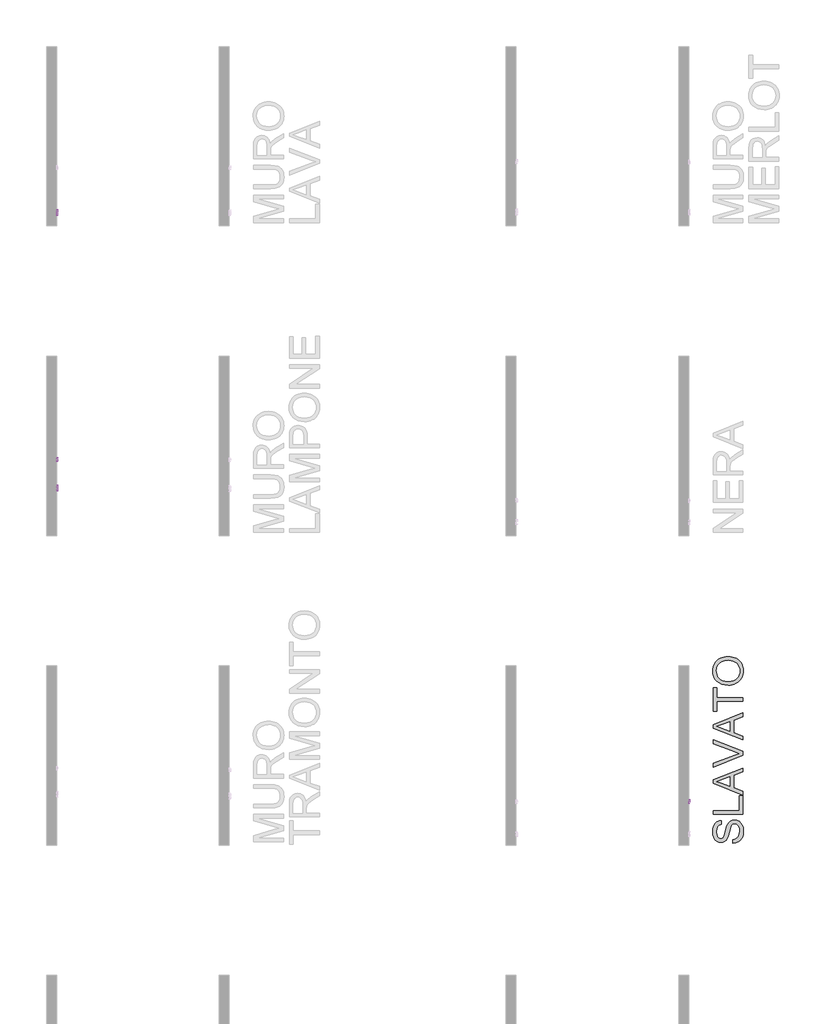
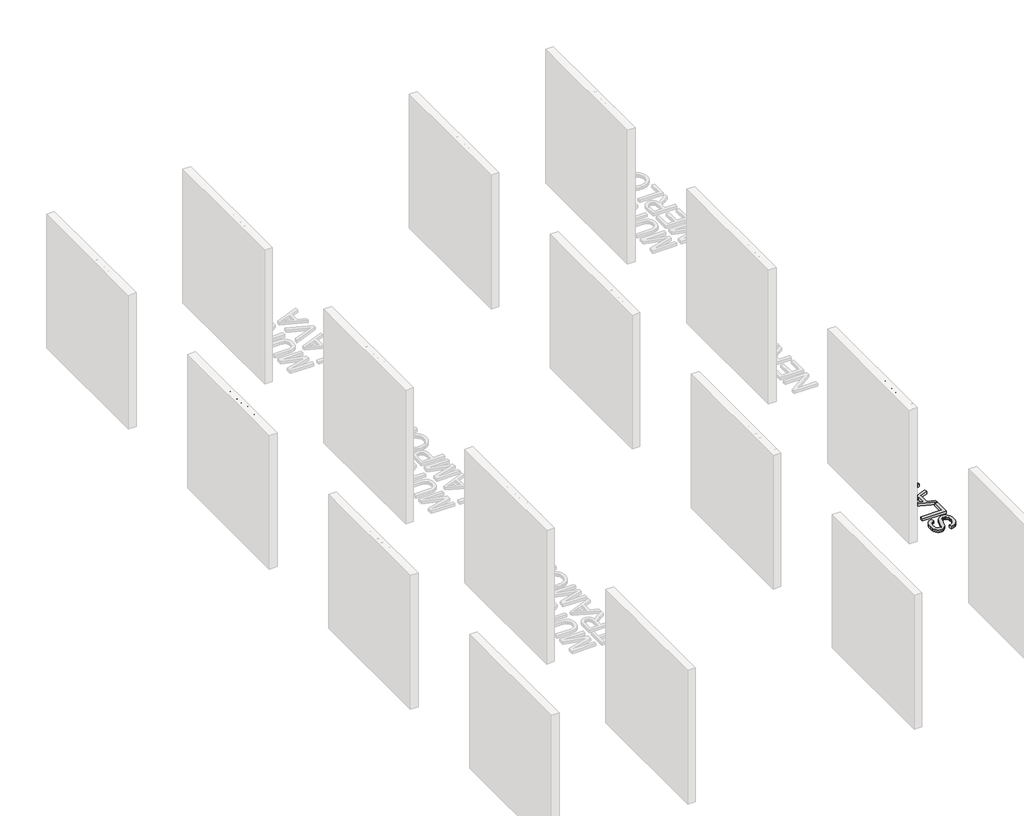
# One storey, part 7 of 11: 5 proxies.
"""IFC4 building model written with IfcOpenShell, lengths in millimetres."""

from ifc_helpers import new_model, si_unit, frame, origin, origin_with_axes, place, context, project, spatial, polyline, outline, extrude, element, save

model = new_model("IFC4")

# Units and contexts
model_context = context("Model", 3, world=origin())
ifc_project = project(units=[si_unit("LENGTHUNIT", "METRE", prefix="MILLI")], contexts=[model_context])

# Site, building, storey
site = spatial("IfcSite", under=ifc_project)
building = spatial("IfcBuilding", under=site)
storey = spatial("IfcBuildingStorey", under=building, Name="PORTOBELLO - SHOWROOM", Elevation=0.0)

# Proxies
placement = place(None, origin())
element("IfcBuildingElementProxy", 1, Name="10mm Arial", ObjectType="10mm Arial", at=placement, inside=storey, context=model_context, shape_type="SweptSolid", body=[
    extrude(outline(polyline([(2.1290641, 2566.4186247), (2.1290641, 2666.8749349), (23.736, 2666.8749349), (44.2883408, 2596.0699135), (48.4331446, 2581.2810573), (52.9213049, 2597.2961869), (73.1302892, 2666.8749349), (94.737225, 2666.8749349), (94.737225, 2566.4186247), (82.1801863, 2566.4186247), (82.1801863, 2654.3178961), (56.9434814, 2566.4186247), (39.9228078, 2566.4186247), (14.6861029, 2654.3178961), (14.6861029, 2566.4186247), (2.1290641, 2566.4186247)])), frame((-32979.0012486, 0.0, 0.0), z_axis=(1.0, 0.0, 0.0), x_axis=(0.0, 1.0, 0.0)), (0.0, 0.0, 1.0), 20.0),
    extrude(outline(polyline([(162.2313084, 2566.4186247), (162.2313084, 2579.0982908), (152.3965964, 2568.4113189), (139.5697775, 2564.8489949), (127.7607655, 2567.3505924), (119.6183106, 2573.6291118), (115.878177, 2582.8752126), (115.142413, 2594.5493346), (115.142413, 2640.1912275), (127.6994518, 2640.1912275), (127.6994518, 2600.459972), (128.4597413, 2587.6576786), (133.4261482, 2580.1406231), (142.7826136, 2577.4060336), (153.2672505, 2580.2019368), (160.1956947, 2587.8170941), (162.2313084, 2601.8088727), (162.2313084, 2640.1912275), (174.7883472, 2640.1912275), (174.7883472, 2566.4186247), (162.2313084, 2566.4186247)])), frame((-32979.0012486, 0.0, 0.0), z_axis=(1.0, 0.0, 0.0), x_axis=(0.0, 1.0, 0.0)), (0.0, 0.0, 1.0), 20.0),
    extrude(outline(polyline([(192.0542755, 2566.4186247), (192.0542755, 2640.1912275), (203.0416844, 2640.1912275), (203.0416844, 2629.277395), (210.8407827, 2639.3328362), (218.6889319, 2641.7608573), (231.2950217, 2637.8858337), (227.1011669, 2626.6286446), (218.271999, 2629.2038186), (211.1718765, 2626.7267465), (206.646928, 2619.8596159), (204.6113143, 2605.193387), (204.6113143, 2566.4186247), (192.0542755, 2566.4186247)])), frame((-32979.0012486, 0.0, 0.0), z_axis=(1.0, 0.0, 0.0), x_axis=(0.0, 1.0, 0.0)), (0.0, 0.0, 1.0), 20.0),
    extrude(outline(polyline([(236.0039112, 2603.3049261), (238.7201066, 2621.0920206), (246.8686928, 2633.593877), (256.9363967, 2639.7191123), (268.9906634, 2641.7608573), (282.1822986, 2639.2745882), (292.7190521, 2631.8157807), (299.6260366, 2619.9730462), (301.9283647, 2604.3349957), (297.8571373, 2581.9922959), (285.9990743, 2569.349418), (268.9906634, 2564.8489949), (255.6396127, 2567.326067), (245.1151219, 2574.7572833), (238.2817139, 2586.8483382), (236.0039112, 2603.3049261)]), holes=[polyline([(248.56095, 2603.3294516), (250.0140838, 2591.9649636), (254.3734855, 2583.868494), (260.9340477, 2579.0216487), (268.9906634, 2577.4060336), (277.0104909, 2579.0308458), (283.5587904, 2583.9052822), (287.9181921, 2592.1090507), (289.371326, 2603.721859), (287.908995, 2614.7552532), (283.5220022, 2622.7413582), (276.9645057, 2627.5882035), (268.9906634, 2629.2038186), (260.9340477, 2627.5943348), (254.3734855, 2622.7658837), (250.0140838, 2614.6878082), (248.56095, 2603.3294516)])]), frame((-32979.0012486, 0.0, 0.0), z_axis=(1.0, 0.0, 0.0), x_axis=(0.0, 1.0, 0.0)), (0.0, 0.0, 1.0), 20.0),
    extrude(outline(polyline([(356.8654093, 2566.4186247), (356.8654093, 2666.8749349), (369.4224481, 2666.8749349), (369.4224481, 2578.9756635), (419.6506032, 2578.9756635), (419.6506032, 2566.4186247), (356.8654093, 2566.4186247)])), frame((-32979.0012486, 0.0, 0.0), z_axis=(1.0, 0.0, 0.0), x_axis=(0.0, 1.0, 0.0)), (0.0, 0.0, 1.0), 20.0),
    extrude(outline(polyline([(479.2965373, 2575.8364038), (467.1196433, 2567.326067), (453.667425, 2564.8489949), (443.1735911, 2566.338917), (435.4327408, 2570.8086832), (430.6594719, 2577.596106), (429.0683823, 2586.0389978), (431.471878, 2595.9718117), (437.7871855, 2603.1822988), (446.5795652, 2607.3025771), (457.4443468, 2609.191038), (479.2229609, 2613.5075201), (479.2965373, 2616.3034233), (475.8384466, 2625.5740495), (461.9570326, 2629.2038186), (449.2528411, 2626.7880601), (443.1950509, 2618.2164096), (430.6380121, 2619.7860395), (436.0704029, 2632.0487727), (447.0087609, 2639.2347343), (463.5757134, 2641.7608573), (478.7937653, 2639.5290399), (487.3899412, 2633.9249708), (491.2404394, 2625.4023713), (491.8535761, 2614.4149624), (491.8535761, 2598.7922403), (492.4912382, 2576.976838), (494.9928358, 2566.4186247), (482.435797, 2566.4186247), (479.2965373, 2575.8364038)]), holes=[polyline([(479.2965373, 2600.9504813), (459.0385021, 2597.0999831), (448.2350342, 2595.0643694), (443.3422037, 2591.7534315), (441.625421, 2586.9219146), (445.3655546, 2580.1283604), (456.3407008, 2577.4060336), (469.0448924, 2580.4104033), (477.2363982, 2587.682204), (479.2229609, 2597.3942887), (479.2965373, 2600.9504813)])]), frame((-32979.0012486, 0.0, 0.0), z_axis=(1.0, 0.0, 0.0), x_axis=(0.0, 1.0, 0.0)), (0.0, 0.0, 1.0), 20.0),
    extrude(outline(polyline([(509.1195044, 2566.4186247), (509.1195044, 2640.1912275), (521.6765432, 2640.1912275), (521.6765432, 2628.0511216), (530.3095073, 2637.9961983), (542.596766, 2641.7608573), (555.1783302, 2637.9226219), (562.0945117, 2627.1682049), (571.8924355, 2638.1126942), (584.2655333, 2641.7608573), (593.7047721, 2640.2433441), (600.685333, 2635.6908044), (604.9987494, 2627.9806109), (606.4365549, 2616.9901363), (606.4365549, 2566.4186247), (593.8795161, 2566.4186247), (593.8795161, 2611.5945337), (592.7145564, 2622.0791706), (588.4961762, 2627.2417813), (581.3224773, 2629.2038186), (568.973905, 2624.176098), (565.285888, 2617.6339298), (564.056549, 2608.0628666), (564.056549, 2566.4186247), (551.4995103, 2566.4186247), (551.4995103, 2612.9924853), (548.5932425, 2625.1571166), (539.0650988, 2629.2038186), (529.7699471, 2626.5060173), (523.5895296, 2618.6088171), (521.6765432, 2603.6237572), (521.6765432, 2566.4186247), (509.1195044, 2566.4186247)])), frame((-32979.0012486, 0.0, 0.0), z_axis=(1.0, 0.0, 0.0), x_axis=(0.0, 1.0, 0.0)), (0.0, 0.0, 1.0), 20.0),
    extrude(outline(polyline([(625.272113, 2538.1652875), (625.272113, 2640.1912275), (637.8291518, 2640.1912275), (637.8291518, 2627.8794434), (646.5111669, 2638.2905038), (658.2343398, 2641.7608573), (674.1513674, 2636.904815), (684.5501652, 2623.2196048), (688.0573069, 2603.8690118), (684.096444, 2583.5251375), (672.5940003, 2569.668249), (656.7137609, 2564.8489949), (645.7876656, 2568.0740937), (637.8291518, 2576.2288113), (637.8291518, 2538.1652875), (625.272113, 2538.1652875)]), holes=[polyline([(637.8291518, 2602.7163149), (639.1872495, 2591.4591259), (643.2615426, 2583.5864512), (649.2733475, 2578.951138), (656.4439807, 2577.4060336), (663.7311099, 2579.0063203), (669.896199, 2583.8071804), (674.0992508, 2591.9680293), (675.5002681, 2603.6482826), (674.1329733, 2614.844158), (670.0310891, 2622.8271973), (664.0284812, 2627.6096633), (656.9590155, 2629.2038186), (649.8619587, 2627.5084957), (643.6294246, 2622.4225271), (639.27922, 2614.1053283), (637.8291518, 2602.7163149)])]), frame((-32979.0012486, 0.0, 0.0), z_axis=(1.0, 0.0, 0.0), x_axis=(0.0, 1.0, 0.0)), (0.0, 0.0, 1.0), 20.0),
    extrude(outline(polyline([(699.0447158, 2603.3049261), (701.7609112, 2621.0920206), (709.9094974, 2633.593877), (719.9772013, 2639.7191123), (732.031468, 2641.7608573), (745.2231032, 2639.2745882), (755.7598567, 2631.8157807), (762.6668412, 2619.9730462), (764.9691693, 2604.3349957), (760.8979419, 2581.9922959), (749.0398789, 2569.349418), (732.031468, 2564.8489949), (718.6804173, 2567.326067), (708.1559265, 2574.7572833), (701.3225185, 2586.8483382), (699.0447158, 2603.3049261)]), holes=[polyline([(711.6017546, 2603.3294516), (713.0548884, 2591.9649636), (717.4142901, 2583.868494), (723.9748523, 2579.0216487), (732.031468, 2577.4060336), (740.0512955, 2579.0308458), (746.599595, 2583.9052822), (750.9589967, 2592.1090507), (752.4121306, 2603.721859), (750.9497996, 2614.7552532), (746.5628068, 2622.7413582), (740.0053103, 2627.5882035), (732.031468, 2629.2038186), (723.9748523, 2627.5943348), (717.4142901, 2622.7658837), (713.0548884, 2614.6878082), (711.6017546, 2603.3294516)])]), frame((-32979.0012486, 0.0, 0.0), z_axis=(1.0, 0.0, 0.0), x_axis=(0.0, 1.0, 0.0)), (0.0, 0.0, 1.0), 20.0),
    extrude(outline(polyline([(779.0958379, 2566.4186247), (779.0958379, 2640.1912275), (791.6528767, 2640.1912275), (791.6528767, 2629.8905316), (801.2545968, 2638.7932759), (814.3634585, 2641.7608573), (826.2215215, 2639.3696244), (834.3149254, 2633.091105), (838.0795845, 2623.8572669), (838.7417721, 2611.7171611), (838.7417721, 2566.4186247), (826.1847333, 2566.4186247), (826.1847333, 2610.0249039), (824.7377308, 2621.1349401), (819.6241711, 2627.0087893), (811.0034697, 2629.2038186), (797.3795731, 2624.2741998), (793.0845508, 2617.1311578), (791.6528767, 2605.561269), (791.6528767, 2566.4186247), (779.0958379, 2566.4186247)])), frame((-32979.0012486, 0.0, 0.0), z_axis=(1.0, 0.0, 0.0), x_axis=(0.0, 1.0, 0.0)), (0.0, 0.0, 1.0), 20.0),
    extrude(outline(polyline([(907.6583325, 2588.3934426), (919.9701166, 2586.8238127), (915.5340729, 2577.5470551), (908.4554102, 2570.6124795), (898.893544, 2566.289866), (887.0078899, 2564.8489949), (872.2742159, 2567.335264), (860.9373191, 2574.7940715), (853.7084379, 2586.7410393), (851.2988109, 2602.6917894), (853.7329634, 2619.1790342), (861.035421, 2631.5092124), (872.2190336, 2639.1979461), (886.2966513, 2641.7608573), (899.9358763, 2639.2040775), (910.8343804, 2631.5337379), (917.9804882, 2619.2280851), (920.3625241, 2602.7653658), (920.2889477, 2599.3808515), (863.8558496, 2599.3808515), (866.0294191, 2589.9814665), (871.0785995, 2583.0714164), (878.3657287, 2578.8223793), (887.2531445, 2577.4060336), (899.5649286, 2580.0302585), (907.6583325, 2588.3934426)]), holes=[polyline([(863.8558496, 2611.9378903), (907.8054853, 2611.9378903), (902.7777647, 2623.3177066), (895.456913, 2627.7322906), (886.2476004, 2629.2038186), (870.7842939, 2624.5071918), (865.9190545, 2619.016553), (863.8558496, 2611.9378903)])]), frame((-32979.0012486, 0.0, 0.0), z_axis=(1.0, 0.0, 0.0), x_axis=(0.0, 1.0, 0.0)), (0.0, 0.0, 1.0), 20.0),
])
element("IfcBuildingElementProxy", 2, Name="10mm Arial", ObjectType="10mm Arial", at=placement, inside=storey, context=model_context, shape_type="SweptSolid", body=[
    extrude(outline(polyline([(4660.4376646, 2563.7332584), (4660.4376646, 2664.1895685), (4682.0446004, 2664.1895685), (4702.5969412, 2593.3845472), (4706.741745, 2578.595691), (4711.2299054, 2594.6108205), (4731.4388897, 2664.1895685), (4753.0458255, 2664.1895685), (4753.0458255, 2563.7332584), (4740.4887867, 2563.7332584), (4740.4887867, 2651.6325297), (4715.2520819, 2563.7332584), (4698.2314082, 2563.7332584), (4672.9947034, 2651.6325297), (4672.9947034, 2563.7332584), (4660.4376646, 2563.7332584)])), frame((-32979.0012486, 0.0, 0.0), z_axis=(1.0, 0.0, 0.0), x_axis=(0.0, 1.0, 0.0)), (0.0, 0.0, 1.0), 20.0),
    extrude(outline(polyline([(4820.5399089, 2563.7332584), (4820.5399089, 2576.4129245), (4810.7051969, 2565.7259525), (4797.878378, 2562.1636285), (4786.0693659, 2564.6652261), (4777.9269111, 2570.9437455), (4774.1867775, 2580.1898463), (4773.4510135, 2591.8639683), (4773.4510135, 2637.5058611), (4786.0080523, 2637.5058611), (4786.0080523, 2597.7746056), (4786.7683417, 2584.9723122), (4791.7347487, 2577.4552568), (4801.0912141, 2574.7206673), (4811.5758509, 2577.5165704), (4818.5042952, 2585.1317277), (4820.5399089, 2599.1235063), (4820.5399089, 2637.5058611), (4833.0969477, 2637.5058611), (4833.0969477, 2563.7332584), (4820.5399089, 2563.7332584)])), frame((-32979.0012486, 0.0, 0.0), z_axis=(1.0, 0.0, 0.0), x_axis=(0.0, 1.0, 0.0)), (0.0, 0.0, 1.0), 20.0),
    extrude(outline(polyline([(4850.362876, 2563.7332584), (4850.362876, 2637.5058611), (4861.3502849, 2637.5058611), (4861.3502849, 2626.5920286), (4869.1493832, 2636.6474698), (4876.9975324, 2639.075491), (4889.6036221, 2635.2004673), (4885.4097674, 2623.9432782), (4876.5805995, 2626.5184522), (4869.480477, 2624.0413801), (4864.9555284, 2617.1742495), (4862.9199147, 2602.5080206), (4862.9199147, 2563.7332584), (4850.362876, 2563.7332584)])), frame((-32979.0012486, 0.0, 0.0), z_axis=(1.0, 0.0, 0.0), x_axis=(0.0, 1.0, 0.0)), (0.0, 0.0, 1.0), 20.0),
    extrude(outline(polyline([(4894.3125117, 2600.6195597), (4897.0287071, 2618.4066542), (4905.1772932, 2630.9085107), (4915.2449972, 2637.0337459), (4927.2992639, 2639.075491), (4940.4908991, 2636.5892218), (4951.0276526, 2629.1304144), (4957.934637, 2617.2876798), (4960.2369652, 2601.6496293), (4956.1657378, 2579.3069295), (4944.3076748, 2566.6640516), (4927.2992639, 2562.1636285), (4913.9482131, 2564.6407006), (4903.4237224, 2572.0719169), (4896.5903143, 2584.1629718), (4894.3125117, 2600.6195597)]), holes=[polyline([(4906.8695504, 2600.6440852), (4908.3226843, 2589.2795972), (4912.6820859, 2581.1831277), (4919.2426482, 2576.3362824), (4927.2992639, 2574.7206673), (4935.3190914, 2576.3454794), (4941.8673909, 2581.2199159), (4946.2267925, 2589.4236844), (4947.6799264, 2601.0364927), (4946.2175955, 2612.0698868), (4941.8306027, 2620.0559918), (4935.2731061, 2624.9028371), (4927.2992639, 2626.5184522), (4919.2426482, 2624.9089685), (4912.6820859, 2620.0805173), (4908.3226843, 2612.0024418), (4906.8695504, 2600.6440852)])]), frame((-32979.0012486, 0.0, 0.0), z_axis=(1.0, 0.0, 0.0), x_axis=(0.0, 1.0, 0.0)), (0.0, 0.0, 1.0), 20.0),
    extrude(outline(polyline([(5015.1740098, 2563.7332584), (5015.1740098, 2664.1895685), (5027.7310486, 2664.1895685), (5027.7310486, 2576.2902971), (5077.9592036, 2576.2902971), (5077.9592036, 2563.7332584), (5015.1740098, 2563.7332584)])), frame((-32979.0012486, 0.0, 0.0), z_axis=(1.0, 0.0, 0.0), x_axis=(0.0, 1.0, 0.0)), (0.0, 0.0, 1.0), 20.0),
    extrude(outline(polyline([(5137.6051378, 2573.1510374), (5125.4282438, 2564.6407006), (5111.9760255, 2562.1636285), (5101.4821916, 2563.6535506), (5093.7413412, 2568.1233168), (5088.9680724, 2574.9107396), (5087.3769827, 2583.3536314), (5089.7804784, 2593.2864453), (5096.095786, 2600.4969324), (5104.8881657, 2604.6172108), (5115.7529473, 2606.5056717), (5137.5315614, 2610.8221537), (5137.6051378, 2613.6180569), (5134.147047, 2622.8886832), (5120.2656331, 2626.5184522), (5107.5614415, 2624.1026938), (5101.5036513, 2615.5310433), (5088.9466126, 2617.1006731), (5094.3790034, 2629.3634063), (5105.3173614, 2636.5493679), (5121.8843139, 2639.075491), (5137.1023657, 2636.8436735), (5145.6985417, 2631.2396045), (5149.5490399, 2622.7170049), (5150.1621766, 2611.729596), (5150.1621766, 2596.1068739), (5150.7998387, 2574.2914716), (5153.3014363, 2563.7332584), (5140.7443975, 2563.7332584), (5137.6051378, 2573.1510374)]), holes=[polyline([(5137.6051378, 2598.265115), (5117.3471026, 2594.4146168), (5106.5436347, 2592.379003), (5101.6508041, 2589.0680651), (5099.9340215, 2584.2365482), (5103.6741551, 2577.442994), (5114.6493013, 2574.7206673), (5127.3534929, 2577.7250369), (5135.5449986, 2584.9968377), (5137.5315614, 2594.7089223), (5137.6051378, 2598.265115)])]), frame((-32979.0012486, 0.0, 0.0), z_axis=(1.0, 0.0, 0.0), x_axis=(0.0, 1.0, 0.0)), (0.0, 0.0, 1.0), 20.0),
    extrude(outline(polyline([(5185.527899, 2563.7332584), (5159.5799556, 2637.5058611), (5172.8727584, 2637.5058611), (5188.5935823, 2593.3109708), (5193.3269973, 2578.4485382), (5197.9623105, 2592.4771049), (5213.7812363, 2637.5058611), (5227.074039, 2637.5058611), (5201.4449267, 2563.7332584), (5185.527899, 2563.7332584)])), frame((-32979.0012486, 0.0, 0.0), z_axis=(1.0, 0.0, 0.0), x_axis=(0.0, 1.0, 0.0)), (0.0, 0.0, 1.0), 20.0),
    extrude(outline(polyline([(5285.1503433, 2573.1510374), (5272.9734493, 2564.6407006), (5259.521231, 2562.1636285), (5249.0273971, 2563.6535506), (5241.2865468, 2568.1233168), (5236.5132779, 2574.9107396), (5234.9221883, 2583.3536314), (5237.325684, 2593.2864453), (5243.6409915, 2600.4969324), (5252.4333712, 2604.6172108), (5263.2981528, 2606.5056717), (5285.0767669, 2610.8221537), (5285.1503433, 2613.6180569), (5281.6922526, 2622.8886832), (5267.8108386, 2626.5184522), (5255.1066471, 2624.1026938), (5249.0488569, 2615.5310433), (5236.4918181, 2617.1006731), (5241.9242089, 2629.3634063), (5252.8625669, 2636.5493679), (5269.4295194, 2639.075491), (5284.6475713, 2636.8436735), (5293.2437472, 2631.2396045), (5297.0942454, 2622.7170049), (5297.7073821, 2611.729596), (5297.7073821, 2596.1068739), (5298.3450442, 2574.2914716), (5300.8466418, 2563.7332584), (5288.289603, 2563.7332584), (5285.1503433, 2573.1510374)]), holes=[polyline([(5285.1503433, 2598.265115), (5264.8923081, 2594.4146168), (5254.0888402, 2592.379003), (5249.1960097, 2589.0680651), (5247.479227, 2584.2365482), (5251.2193606, 2577.442994), (5262.1945068, 2574.7206673), (5274.8986984, 2577.7250369), (5283.0902042, 2584.9968377), (5285.0767669, 2594.7089223), (5285.1503433, 2598.265115)])]), frame((-32979.0012486, 0.0, 0.0), z_axis=(1.0, 0.0, 0.0), x_axis=(0.0, 1.0, 0.0)), (0.0, 0.0, 1.0), 20.0),
])
element("IfcBuildingElementProxy", 3, Name="10mm Arial Narrow", ObjectType="10mm Arial Narrow", at=placement, inside=storey, context=model_context, shape_type="SweptSolid", body=[
    extrude(outline(polyline([(959.2641232, 2566.4186247), (959.2641232, 2667.1372285), (990.5610079, 2667.1372285), (1006.8567094, 2665.2589077), (1018.3296956, 2655.7784646), (1022.619374, 2638.7593557), (1020.8330656, 2626.6835302), (1015.4741404, 2617.0571364), (1005.7303516, 2610.755878), (990.7894523, 2608.6554586), (969.0110849, 2608.6554586), (969.0110849, 2566.4186247), (959.2641232, 2566.4186247)]), holes=[polyline([(969.0110849, 2620.0269138), (991.9824398, 2620.0269138), (1007.8466352, 2624.557728), (1012.8724123, 2638.2263188), (1010.3975979, 2648.3920952), (1004.419969, 2654.192045), (991.7539954, 2655.7657732), (969.0110849, 2655.7657732), (969.0110849, 2620.0269138)])]), frame((-32979.0012486, 0.0, 0.0), z_axis=(1.0, 0.0, 0.0), x_axis=(0.0, 1.0, 0.0)), (0.0, 0.0, 1.0), 20.0),
    extrude(outline(polyline([(1030.741842, 2602.9697309), (1032.6963109, 2619.5605065), (1038.5597175, 2631.5125913), (1047.4182842, 2638.7371459), (1058.3582334, 2641.1453307), (1069.171269, 2638.7371459), (1078.0552184, 2631.5125913), (1083.9947732, 2619.7508768), (1085.9746247, 2603.7312123), (1084.0296744, 2586.5693257), (1078.1948233, 2574.4268706), (1069.3457751, 2567.202316), (1058.3582334, 2564.7941311), (1047.4976052, 2567.2086617), (1038.6231743, 2574.4522533), (1032.7121751, 2586.4106838), (1030.741842, 2602.9697309)]), holes=[polyline([(1040.4888037, 2602.9951136), (1041.7928406, 2590.4433622), (1045.7049511, 2581.5721042), (1051.5461479, 2576.2988456), (1058.6374432, 2574.5410928), (1065.3575164, 2576.3147098), (1071.0495897, 2581.635561), (1074.9331447, 2590.5226832), (1076.2276631, 2602.9951136), (1074.9236262, 2615.508791), (1071.0115156, 2624.3673577), (1065.1703189, 2629.6406162), (1058.0790235, 2631.3983691), (1051.3113578, 2629.6310977), (1045.628803, 2624.3292836), (1041.7738035, 2615.4611984), (1040.4888037, 2602.9951136)])]), frame((-32979.0012486, 0.0, 0.0), z_axis=(1.0, 0.0, 0.0), x_axis=(0.0, 1.0, 0.0)), (0.0, 0.0, 1.0), 20.0),
    extrude(outline(polyline([(1157.4523435, 2574.5410928), (1159.0768371, 2564.7941311), (1151.7158505, 2564.7941311), (1143.4410862, 2566.9135876), (1139.126025, 2572.7135375), (1137.9584202, 2587.3593627), (1137.9584202, 2629.7738755), (1129.8359522, 2629.7738755), (1129.8359522, 2633.0228627), (1128.2114586, 2628.1493819), (1120.6474102, 2629.7738755), (1114.5682505, 2627.4513573), (1110.6973869, 2620.9660742), (1108.7175353, 2605.5587676), (1108.7175353, 2566.4186247), (1098.9705736, 2566.4186247), (1098.9705736, 2639.5208371), (1108.7175353, 2639.5208371), (1108.7175353, 2629.8246409), (1114.9616826, 2638.911652), (1121.3581262, 2641.1453307), (1129.8359522, 2639.5208371), (1137.9584202, 2639.5208371), (1137.9584202, 2655.7657732), (1147.7053819, 2663.8882413), (1147.7053819, 2639.5208371), (1157.4523435, 2639.5208371), (1157.4523435, 2629.7738755), (1147.7053819, 2629.7738755), (1147.7053819, 2585.1256839), (1148.5683941, 2577.1301295), (1153.1880478, 2574.5410928), (1157.4523435, 2574.5410928)])), frame((-32979.0012486, 0.0, 0.0), z_axis=(1.0, 0.0, 0.0), x_axis=(0.0, 1.0, 0.0)), (0.0, 0.0, 1.0), 20.0),
    extrude(outline(polyline([(1163.950318, 2602.9697309), (1165.9047868, 2619.5605065), (1171.7681935, 2631.5125913), (1180.6267602, 2638.7371459), (1191.5667093, 2641.1453307), (1202.3797449, 2638.7371459), (1211.2636943, 2631.5125913), (1217.2032491, 2619.7508768), (1219.1831007, 2603.7312123), (1217.2381503, 2586.5693257), (1211.4032992, 2574.4268706), (1202.5542511, 2567.202316), (1191.5667093, 2564.7941311), (1180.7060811, 2567.2086617), (1171.8316502, 2574.4522533), (1165.920651, 2586.4106838), (1163.950318, 2602.9697309)]), holes=[polyline([(1173.6972796, 2602.9951136), (1175.0013165, 2590.4433622), (1178.9134271, 2581.5721042), (1184.7546238, 2576.2988456), (1191.8459192, 2574.5410928), (1198.5659923, 2576.3147098), (1204.2580656, 2581.635561), (1208.1416207, 2590.5226832), (1209.436139, 2602.9951136), (1208.1321022, 2615.508791), (1204.2199916, 2624.3673577), (1198.3787948, 2629.6406162), (1191.2874995, 2631.3983691), (1184.5198337, 2629.6310977), (1178.8372789, 2624.3292836), (1174.9822794, 2615.4611984), (1173.6972796, 2602.9951136)])]), frame((-32979.0012486, 0.0, 0.0), z_axis=(1.0, 0.0, 0.0), x_axis=(0.0, 1.0, 0.0)), (0.0, 0.0, 1.0), 20.0),
    extrude(outline(polyline([(1241.9260112, 2566.4186247), (1232.1790495, 2566.4186247), (1232.1790495, 2667.1372285), (1241.9260112, 2667.1372285), (1241.9260112, 2631.7283443), (1249.3250719, 2638.8101212), (1258.5263053, 2641.1453307), (1271.4080319, 2636.9444918), (1280.6854134, 2624.2150614), (1284.162845, 2603.5281506), (1282.230586, 2587.0738071), (1276.433809, 2574.871068), (1268.0606867, 2567.3133653), (1258.3993917, 2564.7941311), (1249.0585534, 2567.4085505), (1241.9260112, 2575.1756606), (1241.9260112, 2566.4186247)]), holes=[polyline([(1241.9260112, 2603.5281506), (1244.0073936, 2586.2805974), (1249.896183, 2577.5489442), (1258.3486263, 2574.5410928), (1264.2913539, 2576.330574), (1269.5297112, 2581.6990177), (1274.4158834, 2603.1220272), (1269.7073902, 2624.557728), (1264.4626872, 2629.6882088), (1258.1455646, 2631.3983691), (1252.1679357, 2629.6088878), (1246.8756402, 2624.2404441), (1241.9260112, 2603.5281506)])]), frame((-32979.0012486, 0.0, 0.0), z_axis=(1.0, 0.0, 0.0), x_axis=(0.0, 1.0, 0.0)), (0.0, 0.0, 1.0), 20.0),
    extrude(outline(polyline([(1336.1466405, 2589.1615352), (1345.8936022, 2587.5370416), (1342.1940718, 2577.6504751), (1336.3750849, 2570.5306242), (1328.6714316, 2566.2282544), (1319.317902, 2564.7941311), (1307.724348, 2567.2086617), (1298.5802258, 2574.4522533), (1292.640671, 2586.2583875), (1290.6608195, 2602.3605458), (1292.6501896, 2619.0274695), (1298.6182999, 2631.2079987), (1307.6323357, 2638.6609977), (1318.7594824, 2641.1453307), (1329.4424315, 2638.7466644), (1338.1899489, 2631.5506654), (1344.0247999, 2619.8111608), (1345.9697503, 2603.7819777), (1345.8936022, 2600.5329905), (1300.4077811, 2600.5329905), (1306.4107927, 2581.0898326), (1312.3408289, 2576.1782777), (1319.4448156, 2574.5410928), (1329.6232834, 2578.1962034), (1336.1466405, 2589.1615352)]), holes=[polyline([(1301.0677316, 2610.2799522), (1336.1466405, 2610.2799522), (1331.8823448, 2624.5450367), (1326.0570122, 2629.685036), (1318.8356305, 2631.3983691), (1306.6265457, 2625.6872587), (1301.0677316, 2610.2799522)])]), frame((-32979.0012486, 0.0, 0.0), z_axis=(1.0, 0.0, 0.0), x_axis=(0.0, 1.0, 0.0)), (0.0, 0.0, 1.0), 20.0),
    extrude(outline(polyline([(-32959.0012486, 1368.6365127), (-32959.0012486, 1358.889551), (-32979.0012486, 1358.889551), (-32979.0012486, 1368.6365127), (-32959.0012486, 1368.6365127)])), frame((0.0, 0.0, 2566.4186247), z_axis=(0.0, 0.0, 1.0), x_axis=(1.0, 0.0, 0.0)), (0.0, 0.0, 1.0), 100.7186038),
    extrude(outline(polyline([(-32959.0012486, 1394.6284104), (-32959.0012486, 1384.8814488), (-32979.0012486, 1384.8814488), (-32979.0012486, 1394.6284104), (-32959.0012486, 1394.6284104)])), frame((0.0, 0.0, 2566.4186247), z_axis=(0.0, 0.0, 1.0), x_axis=(1.0, 0.0, 0.0)), (0.0, 0.0, 1.0), 100.7186038),
    extrude(outline(polyline([(1405.9998657, 2602.9697309), (1407.9543346, 2619.5605065), (1413.8177412, 2631.5125913), (1422.6763079, 2638.7371459), (1433.616257, 2641.1453307), (1444.4292926, 2638.7371459), (1453.3132421, 2631.5125913), (1459.2527968, 2619.7508768), (1461.2326484, 2603.7312123), (1459.287698, 2586.5693257), (1453.452847, 2574.4268706), (1444.6037988, 2567.202316), (1433.616257, 2564.7941311), (1422.7556289, 2567.2086617), (1413.881198, 2574.4522533), (1407.9701988, 2586.4106838), (1405.9998657, 2602.9697309)]), holes=[polyline([(1415.7468273, 2602.9951136), (1417.0508642, 2590.4433622), (1420.9629748, 2581.5721042), (1426.8041715, 2576.2988456), (1433.8954669, 2574.5410928), (1440.6155401, 2576.3147098), (1446.3076134, 2581.635561), (1450.1911684, 2590.5226832), (1451.4856867, 2602.9951136), (1450.1816499, 2615.508791), (1446.2695393, 2624.3673577), (1440.4283426, 2629.6406162), (1433.3370472, 2631.3983691), (1426.5693815, 2629.6310977), (1420.8868267, 2624.3292836), (1417.0318272, 2615.4611984), (1415.7468273, 2602.9951136)])]), frame((-32979.0012486, 0.0, 0.0), z_axis=(1.0, 0.0, 0.0), x_axis=(0.0, 1.0, 0.0)), (0.0, 0.0, 1.0), 20.0),
])
element("IfcBuildingElementProxy", 4, Name="10mm Arial Narrow", ObjectType="10mm Arial Narrow", at=placement, inside=storey, context=model_context, shape_type="SweptSolid", body=[
    extrude(outline(polyline([(-4189.9977566, 2569.0673129), (-4189.9977566, 2669.7859167), (-4158.7008719, 2669.7859167), (-4142.4051704, 2667.9075959), (-4130.9321843, 2658.4271527), (-4126.6425058, 2641.4080439), (-4128.4288142, 2629.3322184), (-4133.7877394, 2619.7058246), (-4143.5315283, 2613.4045662), (-4158.4724275, 2611.3041467), (-4180.2507949, 2611.3041467), (-4180.2507949, 2569.0673129), (-4189.9977566, 2569.0673129)]), holes=[polyline([(-4180.2507949, 2622.675602), (-4157.27944, 2622.675602), (-4141.4152446, 2627.2064162), (-4136.3894675, 2640.875007), (-4138.864282, 2651.0407834), (-4144.8419108, 2656.8407332), (-4157.5078844, 2658.4144614), (-4180.2507949, 2658.4144614), (-4180.2507949, 2622.675602)])]), frame((-23458.2301018, 0.0, 0.0), z_axis=(1.0, 0.0, 0.0), x_axis=(0.0, 1.0, 0.0)), (0.0, 0.0, 1.0), 20.0),
    extrude(outline(polyline([(-4118.5200378, 2605.6184191), (-4116.5655689, 2622.2091946), (-4110.7021623, 2634.1612795), (-4101.8435956, 2641.385834), (-4090.9036464, 2643.7940189), (-4080.0906108, 2641.385834), (-4071.2066614, 2634.1612795), (-4065.2671067, 2622.399565), (-4063.2872551, 2606.3799005), (-4065.2322054, 2589.2180139), (-4071.0670565, 2577.0755587), (-4079.9161047, 2569.8510042), (-4090.9036464, 2567.4428193), (-4101.7642746, 2569.8573498), (-4110.6387055, 2577.1009414), (-4116.5497047, 2589.0593719), (-4118.5200378, 2605.6184191)]), holes=[polyline([(-4108.7730761, 2605.6438018), (-4107.4690393, 2593.0920504), (-4103.5569287, 2584.2207923), (-4097.7157319, 2578.9475338), (-4090.6244366, 2577.1897809), (-4083.9043634, 2578.963398), (-4078.2122901, 2584.2842491), (-4074.3287351, 2593.1713714), (-4073.0342167, 2605.6438018), (-4074.3382536, 2618.1574791), (-4078.2503642, 2627.0160459), (-4084.0915609, 2632.2893044), (-4091.1828563, 2634.0470573), (-4097.950522, 2632.2797859), (-4103.6330768, 2626.9779718), (-4107.4880763, 2618.1098866), (-4108.7730761, 2605.6438018)])]), frame((-23458.2301018, 0.0, 0.0), z_axis=(1.0, 0.0, 0.0), x_axis=(0.0, 1.0, 0.0)), (0.0, 0.0, 1.0), 20.0),
    extrude(outline(polyline([(-3991.8095363, 2577.1897809), (-3990.1850427, 2567.4428193), (-3997.5460293, 2567.4428193), (-4005.8207937, 2569.5622758), (-4010.1358548, 2575.3622256), (-4011.3034596, 2590.0080508), (-4011.3034596, 2632.4225636), (-4019.4259276, 2632.4225636), (-4019.4259276, 2635.6715509), (-4021.0504212, 2630.79807), (-4028.6144696, 2632.4225636), (-4034.6936293, 2630.1000454), (-4038.564493, 2623.6147624), (-4040.5443446, 2608.2074558), (-4040.5443446, 2569.0673129), (-4050.2913062, 2569.0673129), (-4050.2913062, 2642.1695253), (-4040.5443446, 2642.1695253), (-4040.5443446, 2632.4733291), (-4034.3001972, 2641.5603402), (-4027.9037537, 2643.7940189), (-4019.4259276, 2642.1695253), (-4011.3034596, 2642.1695253), (-4011.3034596, 2658.4144614), (-4001.5564979, 2666.5369294), (-4001.5564979, 2642.1695253), (-3991.8095363, 2642.1695253), (-3991.8095363, 2632.4225636), (-4001.5564979, 2632.4225636), (-4001.5564979, 2587.7743721), (-4000.6934857, 2579.7788176), (-3996.073832, 2577.1897809), (-3991.8095363, 2577.1897809)])), frame((-23458.2301018, 0.0, 0.0), z_axis=(1.0, 0.0, 0.0), x_axis=(0.0, 1.0, 0.0)), (0.0, 0.0, 1.0), 20.0),
    extrude(outline(polyline([(-3985.3115619, 2605.6184191), (-3983.357093, 2622.2091946), (-3977.4936864, 2634.1612795), (-3968.6351196, 2641.385834), (-3957.6951705, 2643.7940189), (-3946.8821349, 2641.385834), (-3937.9981855, 2634.1612795), (-3932.0586307, 2622.399565), (-3930.0787791, 2606.3799005), (-3932.0237295, 2589.2180139), (-3937.8585806, 2577.0755587), (-3946.7076288, 2569.8510042), (-3957.6951705, 2567.4428193), (-3968.5557987, 2569.8573498), (-3977.4302296, 2577.1009414), (-3983.3412288, 2589.0593719), (-3985.3115619, 2605.6184191)]), holes=[polyline([(-3975.5646002, 2605.6438018), (-3974.2605633, 2593.0920504), (-3970.3484528, 2584.2207923), (-3964.507256, 2578.9475338), (-3957.4159607, 2577.1897809), (-3950.6958875, 2578.963398), (-3945.0038142, 2584.2842491), (-3941.1202591, 2593.1713714), (-3939.8257408, 2605.6438018), (-3941.1297777, 2618.1574791), (-3945.0418882, 2627.0160459), (-3950.883085, 2632.2893044), (-3957.9743803, 2634.0470573), (-3964.7420461, 2632.2797859), (-3970.4246009, 2626.9779718), (-3974.2796004, 2618.1098866), (-3975.5646002, 2605.6438018)])]), frame((-23458.2301018, 0.0, 0.0), z_axis=(1.0, 0.0, 0.0), x_axis=(0.0, 1.0, 0.0)), (0.0, 0.0, 1.0), 20.0),
    extrude(outline(polyline([(-3907.3358686, 2569.0673129), (-3917.0828303, 2569.0673129), (-3917.0828303, 2669.7859167), (-3907.3358686, 2669.7859167), (-3907.3358686, 2634.3770325), (-3899.9368079, 2641.4588093), (-3890.7355746, 2643.7940189), (-3877.8538479, 2639.59318), (-3868.5764664, 2626.8637496), (-3865.0990348, 2606.1768388), (-3867.0312938, 2589.7224953), (-3872.8280708, 2577.5197562), (-3881.2011931, 2569.9620535), (-3890.8624881, 2567.4428193), (-3900.2033264, 2570.0572387), (-3907.3358686, 2577.8243488), (-3907.3358686, 2569.0673129)]), holes=[polyline([(-3907.3358686, 2606.1768388), (-3905.2544862, 2588.9292855), (-3899.3656969, 2580.1976324), (-3890.9132535, 2577.1897809), (-3884.9705259, 2578.9792622), (-3879.7321686, 2584.3477059), (-3874.8459964, 2605.7707154), (-3879.5544896, 2627.2064162), (-3884.7991926, 2632.336897), (-3891.1163152, 2634.0470573), (-3897.0939441, 2632.257576), (-3902.3862397, 2626.8891323), (-3907.3358686, 2606.1768388)])]), frame((-23458.2301018, 0.0, 0.0), z_axis=(1.0, 0.0, 0.0), x_axis=(0.0, 1.0, 0.0)), (0.0, 0.0, 1.0), 20.0),
    extrude(outline(polyline([(-3813.1152393, 2591.8102234), (-3803.3682777, 2590.1857298), (-3807.067808, 2580.2991632), (-3812.8867949, 2573.1793123), (-3820.5904482, 2568.8769426), (-3829.9439778, 2567.4428193), (-3841.5375318, 2569.8573498), (-3850.681654, 2577.1009414), (-3856.6212088, 2588.9070757), (-3858.6010604, 2605.009234), (-3856.6116903, 2621.6761577), (-3850.6435799, 2633.8566869), (-3841.6295441, 2641.3096859), (-3830.5023975, 2643.7940189), (-3819.8194483, 2641.3953526), (-3811.0719309, 2634.1993535), (-3805.2370799, 2622.4598489), (-3803.2921295, 2606.4306659), (-3803.3682777, 2603.1816787), (-3848.8540987, 2603.1816787), (-3842.8510872, 2583.7385208), (-3836.9210509, 2578.8269659), (-3829.8170642, 2577.1897809), (-3819.6385965, 2580.8448916), (-3813.1152393, 2591.8102234)]), holes=[polyline([(-3848.1941482, 2612.9286403), (-3813.1152393, 2612.9286403), (-3817.379535, 2627.1937248), (-3823.2048676, 2632.3337242), (-3830.4262493, 2634.0470573), (-3842.6353341, 2628.3359469), (-3848.1941482, 2612.9286403)])]), frame((-23458.2301018, 0.0, 0.0), z_axis=(1.0, 0.0, 0.0), x_axis=(0.0, 1.0, 0.0)), (0.0, 0.0, 1.0), 20.0),
    extrude(outline(polyline([(-23438.2301018, -3780.6253671), (-23438.2301018, -3790.3723288), (-23458.2301018, -3790.3723288), (-23458.2301018, -3780.6253671), (-23438.2301018, -3780.6253671)])), frame((0.0, 0.0, 2569.0673129), z_axis=(0.0, 0.0, 1.0), x_axis=(1.0, 0.0, 0.0)), (0.0, 0.0, 1.0), 100.7186038),
    extrude(outline(polyline([(-23438.2301018, -3754.6334694), (-23438.2301018, -3764.380431), (-23458.2301018, -3764.380431), (-23458.2301018, -3754.6334694), (-23438.2301018, -3754.6334694)])), frame((0.0, 0.0, 2569.0673129), z_axis=(0.0, 0.0, 1.0), x_axis=(1.0, 0.0, 0.0)), (0.0, 0.0, 1.0), 100.7186038),
    extrude(outline(polyline([(-3743.2620141, 2605.6184191), (-3741.3075452, 2622.2091946), (-3735.4441386, 2634.1612795), (-3726.5855719, 2641.385834), (-3715.6456228, 2643.7940189), (-3704.8325872, 2641.385834), (-3695.9486378, 2634.1612795), (-3690.009083, 2622.399565), (-3688.0292314, 2606.3799005), (-3689.9741818, 2589.2180139), (-3695.8090328, 2577.0755587), (-3704.658081, 2569.8510042), (-3715.6456228, 2567.4428193), (-3726.5062509, 2569.8573498), (-3735.3806818, 2577.1009414), (-3741.2916811, 2589.0593719), (-3743.2620141, 2605.6184191)]), holes=[polyline([(-3733.5150525, 2605.6438018), (-3732.2110156, 2593.0920504), (-3728.298905, 2584.2207923), (-3722.4577083, 2578.9475338), (-3715.3664129, 2577.1897809), (-3708.6463398, 2578.963398), (-3702.9542665, 2584.2842491), (-3699.0707114, 2593.1713714), (-3697.7761931, 2605.6438018), (-3699.0802299, 2618.1574791), (-3702.9923405, 2627.0160459), (-3708.8335373, 2632.2893044), (-3715.9248326, 2634.0470573), (-3722.6924984, 2632.2797859), (-3728.3750532, 2626.9779718), (-3732.2300526, 2618.1098866), (-3733.5150525, 2605.6438018)])]), frame((-23458.2301018, 0.0, 0.0), z_axis=(1.0, 0.0, 0.0), x_axis=(0.0, 1.0, 0.0)), (0.0, 0.0, 1.0), 20.0),
])
element("IfcBuildingElementProxy", 5, Name="450mm Arial", ObjectType="450mm Arial", at=placement, inside=storey, context=model_context, shape_type="SweptSolid", body=[
    extrude(outline(polyline([(-22795.3955908, -4786.9231835), (-22795.3955908, -4730.7161656), (-22764.2045382, -4724.2666299), (-22739.1336833, -4712.6025759), (-22719.2361794, -4694.4066517), (-22703.5651798, -4668.3615052), (-22693.3968692, -4636.525499), (-22690.0074323, -4600.9569955), (-22692.5735242, -4569.6424411), (-22700.2717998, -4542.225053), (-22712.4573057, -4520.0084608), (-22728.4850881, -4504.2962939), (-22746.8868486, -4494.9513283), (-22766.1942885, -4491.8363398), (-22785.0077215, -4494.1691506), (-22801.268785, -4501.167583), (-22815.1421481, -4515.3840064), (-22826.7924797, -4539.3707904), (-22848.254339, -4621.2112822), (-22862.4570401, -4674.9345427), (-22875.9736203, -4709.3091959), (-22894.8831102, -4737.2892031), (-22917.7995457, -4757.1180949), (-22944.2289198, -4768.9330955), (-22973.6772255, -4772.871429), (-23006.5973026, -4767.9999712), (-23037.2943483, -4753.3855976), (-23063.3120499, -4729.4125361), (-23082.194095, -4696.4650141), (-23093.6797575, -4656.9170099), (-23097.5083117, -4613.1425013), (-23093.5013661, -4565.71783), (-23081.4805293, -4524.2212426), (-23061.6928048, -4490.1347601), (-23034.385196, -4464.9404035), (-23001.2592826, -4448.9949556), (-22964.0166443, -4442.6551991), (-22964.0166443, -4498.862217), (-22981.9518427, -4502.6221591), (-22997.5542302, -4509.1814742), (-23010.8238069, -4518.5401622), (-23021.7605728, -4530.6982232), (-23030.3096383, -4545.882077), (-23036.4161136, -4564.3181435), (-23041.3012939, -4610.9469147), (-23036.4710033, -4658.6734792), (-23030.43314, -4676.9174319), (-23021.9801315, -4691.4151649), (-23000.6554963, -4710.3520996), (-22988.4905741, -4715.0863333), (-22975.3239155, -4716.6644112), (-22953.724832, -4712.1909034), (-22936.3522527, -4698.7703801), (-22920.8184773, -4667.0441532), (-22904.9553639, -4606.9948588), (-22889.8881506, -4545.024426), (-22876.7420756, -4507.5347842), (-22856.3505647, -4475.4929418), (-22831.1836529, -4453.1391253), (-22801.5157885, -4440.0067728), (-22767.6214199, -4435.6293219), (-22732.9723183, -4440.6654488), (-22700.3815792, -4455.7738293), (-22672.3329599, -4480.3369548), (-22651.3102179, -4513.7373164), (-22638.1778653, -4553.9028294), (-22633.8004145, -4598.7614089), (-22638.5209257, -4653.8294662), (-22652.6824595, -4699.1546078), (-22663.3173323, -4718.2939481), (-22676.3399055, -4735.2582855), (-22691.7501792, -4750.0476198), (-22709.5481534, -4762.6619512), (-22750.0018371, -4780.2540891), (-22795.3955908, -4786.9231835)])), origin_with_axes(), (0.0, 0.0, 1.0), 50.0),
    extrude(outline(polyline([(-22640.8262917, -4351.3187951), (-23090.4824345, -4351.3187951), (-23090.4824345, -4295.1117773), (-22697.0333095, -4295.1117773), (-22697.0333095, -4070.2837059), (-22640.8262917, -4070.2837059), (-22640.8262917, -4351.3187951)])), origin_with_axes(), (0.0, 0.0, 1.0), 50.0),
    extrude(outline(polyline([(-22640.8262917, -4059.415552), (-23090.4824345, -3879.9263446), (-23090.4824345, -3832.062556), (-22640.8262917, -3652.5733486), (-22640.8262917, -3711.9639671), (-22781.3438363, -3763.4504737), (-22781.3438363, -3948.6482063), (-22640.8262917, -4000.0249336), (-22640.8262917, -4059.415552)]), holes=[polyline([(-22837.5508542, -3928.0096919), (-22837.5508542, -3783.9792087), (-22948.0986412, -3824.4877821), (-23034.2754167, -3855.9944503), (-22957.7592224, -3883.9881799), (-22837.5508542, -3928.0096919)])]), origin_with_axes(), (0.0, 0.0, 1.0), 50.0),
    extrude(outline(polyline([(-22640.8262917, -3230.3620387), (-23090.4824345, -3050.8728313), (-23090.4824345, -3003.0090427), (-22640.8262917, -2823.5198353), (-22640.8262917, -2882.9104537), (-22781.3438363, -2934.3969603), (-22781.3438363, -3119.594693), (-22640.8262917, -3170.9714202), (-22640.8262917, -3230.3620387)]), holes=[polyline([(-22837.5508542, -3098.9561786), (-22837.5508542, -2954.9256954), (-22948.0986412, -2995.4342688), (-23034.2754167, -3026.940937), (-22957.7592224, -3054.9346666), (-22837.5508542, -3098.9561786)])]), origin_with_axes(), (0.0, 0.0, 1.0), 50.0),
    extrude(outline(polyline([(-22640.8262917, -3459.6910627), (-23090.4824345, -3638.6313735), (-23090.4824345, -3578.4722997), (-22766.5236265, -3458.7030487), (-22693.5203709, -3434.4418164), (-22766.5236265, -3410.5099221), (-23090.4824345, -3290.4113332), (-23090.4824345, -3230.2522594), (-22640.8262917, -3401.6177962), (-22640.8262917, -3459.6910627)])), origin_with_axes(), (0.0, 0.0, 1.0), 50.0),
    extrude(outline(polyline([(-22640.8262917, -2651.0565051), (-23034.2754167, -2651.0565051), (-23034.2754167, -2798.599927), (-23090.4824345, -2798.599927), (-23090.4824345, -2447.3060654), (-23034.2754167, -2447.3060654), (-23034.2754167, -2594.8494873), (-22640.8262917, -2594.8494873), (-22640.8262917, -2651.0565051)])), origin_with_axes(), (0.0, 0.0, 1.0), 50.0),
    extrude(outline(polyline([(-22859.7262792, -2405.150802), (-22912.4683869, -2401.4045823), (-22959.1589089, -2390.1659232), (-22999.7978453, -2371.4348247), (-23034.385196, -2345.2112869), (-23062.0015591, -2313.0665263), (-23081.7275328, -2276.5717597), (-23093.563117, -2235.7269871), (-23097.5083117, -2190.5322084), (-23095.6557855, -2160.2811413), (-23090.0982068, -2131.5532625), (-23080.8355757, -2104.3485718), (-23067.8678922, -2078.6670694), (-23051.586245, -2055.2291821), (-23032.3817232, -2034.7553367), (-23010.2543266, -2017.2455333), (-22985.2040554, -2002.6997718), (-22957.8003897, -1991.2689989), (-22928.6128099, -1983.1041611), (-22897.6413159, -1978.2052584), (-22864.8859078, -1976.5722909), (-22831.6982435, -1978.2910235), (-22800.3082159, -1983.4472215), (-22770.7158248, -1992.0408848), (-22742.9210702, -2004.0720135), (-22717.6581015, -2019.2558673), (-22695.6610679, -2037.3077062), (-22676.9299694, -2058.2275301), (-22661.4648061, -2082.015339), (-22649.3616347, -2107.7345781), (-22640.7165124, -2134.4486923), (-22635.5294389, -2162.1576818), (-22633.8004145, -2190.8615464), (-22635.711261, -2221.6409266), (-22641.4438004, -2250.7461719), (-22650.9980329, -2278.1772824), (-22664.3739583, -2303.9342581), (-22681.0535556, -2327.3447006), (-22700.5188033, -2347.7362115), (-22722.7697016, -2365.1087907), (-22747.8062505, -2379.4624384), (-22774.6232829, -2390.7010975), (-22802.2156318, -2398.7287111), (-22830.5832972, -2403.5452793), (-22859.7262792, -2405.150802)]), holes=[polyline([(-22859.1773825, -2348.9437842), (-22821.9141606, -2346.1341194), (-22788.8362757, -2337.7051251), (-22759.9437278, -2323.6568012), (-22735.236517, -2303.9891478), (-22715.4487924, -2280.0812677), (-22701.3147035, -2253.3122638), (-22692.8342501, -2223.682136), (-22690.0074323, -2191.1908844), (-22692.8616949, -2158.143875), (-22701.4244828, -2128.1638256), (-22715.6957959, -2101.2507363), (-22735.6756343, -2077.4046071), (-22760.904297, -2057.8810391), (-22790.922083, -2043.9356333), (-22825.7289924, -2035.5683899), (-22865.3250251, -2032.7793087), (-22915.0825072, -2037.5547097), (-22958.0885604, -2051.8809125), (-22993.2591138, -2075.3874119), (-23019.5100965, -2107.7037026), (-23035.8534945, -2146.6890878), (-23041.3012939, -2190.2028705), (-23038.6768817, -2221.5654533), (-23030.8036453, -2250.6638374), (-23017.6815845, -2277.4980228), (-22999.3106995, -2302.0680095), (-22974.8058943, -2322.5761609), (-22943.2820731, -2337.2248405), (-22904.7392358, -2346.0140482), (-22859.1773825, -2348.9437842)])]), origin_with_axes(), (0.0, 0.0, 1.0), 50.0),
])

save(model, "model.ifc")
